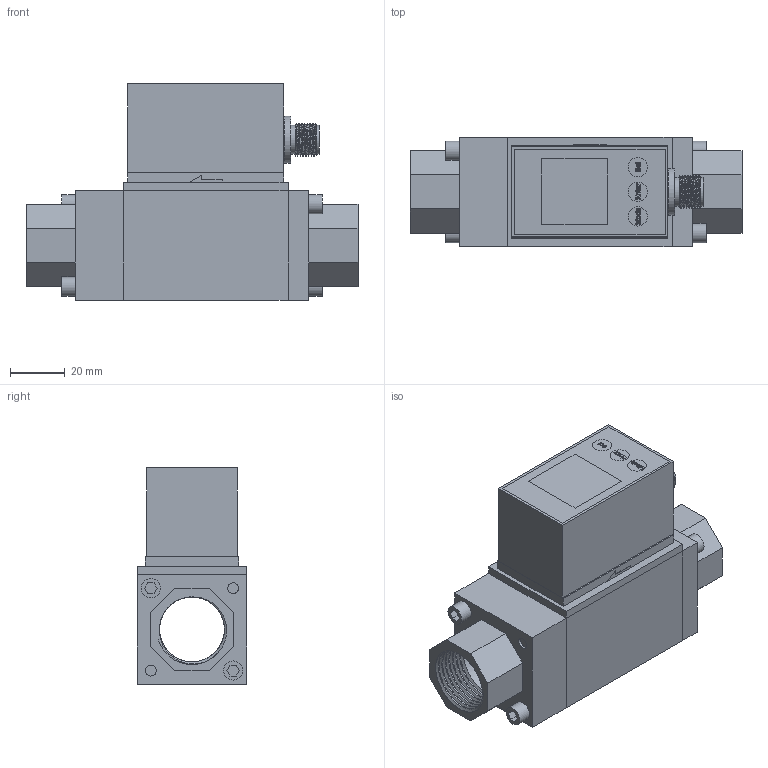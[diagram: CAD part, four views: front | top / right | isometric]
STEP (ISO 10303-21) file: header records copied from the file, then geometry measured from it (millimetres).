
FILE_DESCRIPTION (( 'STEP AP203' ), '1' );
FILE_NAME ('苤講最NPT34.STEP', '2024-07-12T01:28:48', ( '' ), ( '' ), 'SwSTEP 2.0', 'SolidWorks 2023', '' );
FILE_SCHEMA (( 'CONFIG_CONTROL_DESIGN' ));
Length unit declared in the file: millimetre
Products named in the file (9): 小量程NPT34; 04-M12针套（5针）; 02-显示模块; NPT34出水口; NPT34主体; NPT34进水口; 03-M12盘装插座; 08-固定螺栓; 01-基座
Assembly tree (11 placements, depth 2):
  小量程NPT34
    01-基座
    02-显示模块
    03-M12盘装插座
    04-M12针套（5针）
    08-固定螺栓  x4
    NPT34出水口
    NPT34进水口
    NPT34主体
Bounding box: 121 x 40 x 78.91 mm (x, y, z)
Volume: 184731.1 mm3; surface area: 62001.5 mm2
Topology: 11 solids, 11 shells, 385 faces, 962 edges, 643 vertices
Faces by surface type: plane 232, bspline 90, cylinder 55, torus 8
Full cylindrical faces by diameter (mm): 1 x5, 4 x16, 7 x7, 9 x1, 9.5 x2, 10.5 x2, 12 x2, 17 x1, 23.66 x17
Entity records: 19204 total; most frequent: CARTESIAN_POINT 10844, ORIENTED_EDGE 1594, DIRECTION 1192, EDGE_CURVE 797, VERTEX_POINT 556, LINE 520, VECTOR 520, EDGE_LOOP 445
